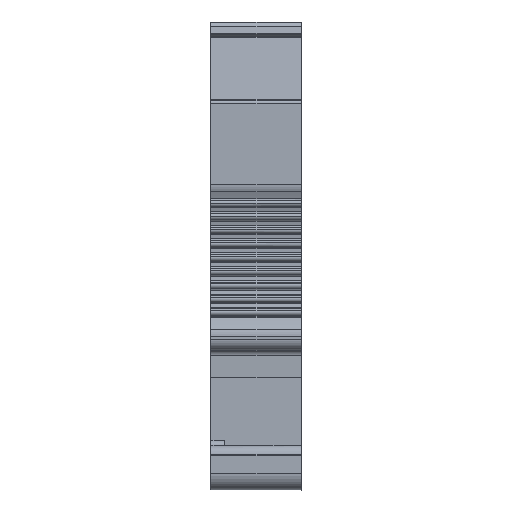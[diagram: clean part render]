
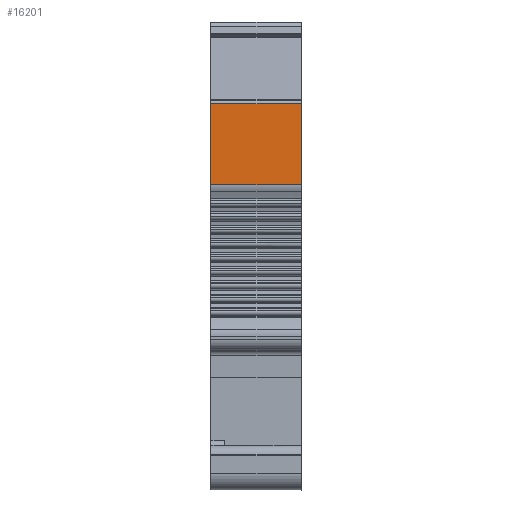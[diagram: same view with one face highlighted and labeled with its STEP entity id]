
A CAD part, front view. The second image highlights one B-rep face of the part: STEP entity #16201.
In plain terms, the highlighted planar face has unit normal (0, -1, 0).
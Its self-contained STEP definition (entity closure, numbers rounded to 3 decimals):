
#983=DIRECTION('',(1.,0.,0.));
#984=VECTOR('',#983,8.15);
#985=CARTESIAN_POINT('',(0.,151.91,27.533));
#986=LINE('',#985,#984);
#995=DIRECTION('',(-1.,0.,0.));
#996=VECTOR('',#995,8.15);
#997=CARTESIAN_POINT('',(8.15,151.91,34.846));
#998=LINE('',#997,#996);
#2955=DIRECTION('',(0.,0.,-1.));
#2956=VECTOR('',#2955,7.312);
#2957=CARTESIAN_POINT('',(0.,151.91,
34.846));
#2958=LINE('',#2957,#2956);
#4092=DIRECTION('',(0.,0.,1.));
#4093=VECTOR('',#4092,7.312);
#4094=CARTESIAN_POINT('',(8.15,151.91,27.533));
#4095=LINE('',#4094,#4093);
#10894=CARTESIAN_POINT('',(0.,151.91,
27.533));
#10895=CARTESIAN_POINT('',(8.15,151.91,27.533));
#10896=VERTEX_POINT('',#10894);
#10897=VERTEX_POINT('',#10895);
#10898=CARTESIAN_POINT('',(8.15,151.91,34.846));
#10899=CARTESIAN_POINT('',(0.,151.91,
34.846));
#10900=VERTEX_POINT('',#10898);
#10901=VERTEX_POINT('',#10899);
#16187=CARTESIAN_POINT('',(8.15,151.91,27.2));
#16188=DIRECTION('',(0.,1.,0.));
#16189=DIRECTION('',(0.,0.,1.));
#16190=AXIS2_PLACEMENT_3D('',#16187,#16188,#16189);
#16191=PLANE('',#16190);
#16193=ORIENTED_EDGE('',*,*,#16192,.F.);
#16195=ORIENTED_EDGE('',*,*,#16194,.F.);
#16196=ORIENTED_EDGE('',*,*,#16177,.F.);
#16198=ORIENTED_EDGE('',*,*,#16197,.F.);
#16199=EDGE_LOOP('',(#16193,#16195,#16196,#16198));
#16200=FACE_OUTER_BOUND('',#16199,.F.);
#16201=ADVANCED_FACE('',(#16200),#16191,.F.);
#16177=EDGE_CURVE('',#10896,#10897,#986,.T.);
#16192=EDGE_CURVE('',#10900,#10901,#998,.T.);
#16194=EDGE_CURVE('',#10897,#10900,#4095,.T.);
#16197=EDGE_CURVE('',#10901,#10896,#2958,.T.);
